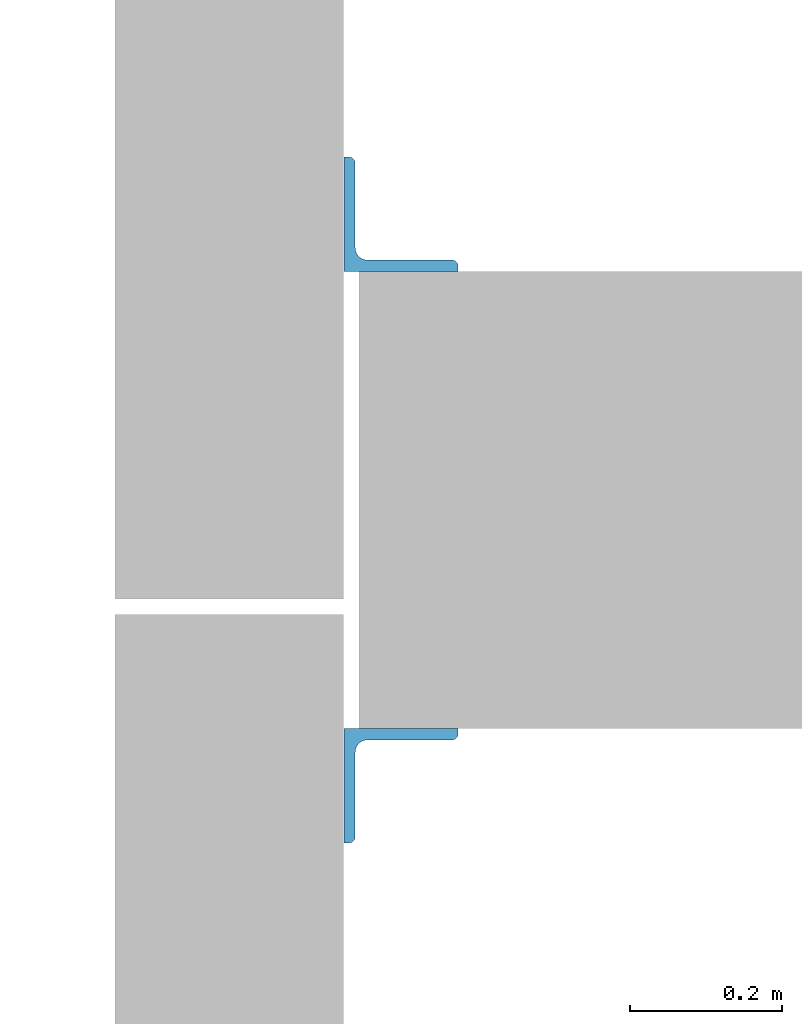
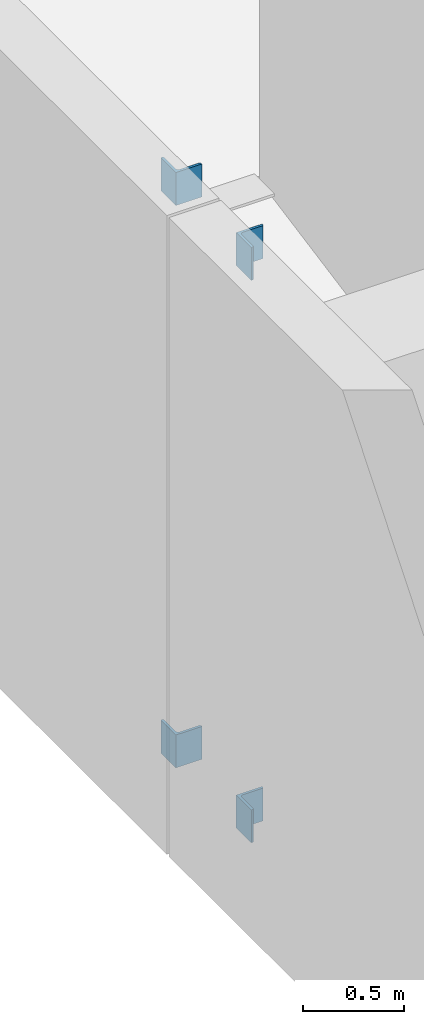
# One storey, part 9 of 27: 4 columns.
"""IFC2X3 building model written with IfcOpenShell, lengths in millimetres."""

from ifc_helpers import new_model, entity, si_unit, converted_unit, derived_unit, direction, frame, frame_2d, origin, place, context, subcontext, project, spatial, polyline, circle_curve, parameter, trimmed, segment, composite_curve, outline, extrude, source, transform, mapped, material, type_object, type_shapes, element, save


model = new_model("IFC2X3")

# Units and contexts
model_context = context("Model", 3, precision=0.01, world=origin(), true_north=direction((6.12303176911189e-17, 1.0)))
body_context = subcontext(model_context, "Body", "Model", "MODEL_VIEW")
ifc_project = project(units=[si_unit("LENGTHUNIT", "METRE", prefix="MILLI"), si_unit("AREAUNIT", "SQUARE_METRE"), si_unit("VOLUMEUNIT", "CUBIC_METRE"), converted_unit("PLANEANGLEUNIT", "DEGREE", entity("IfcRatioMeasure", 0.0174532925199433), si_unit("PLANEANGLEUNIT", "RADIAN"), dimensions=[0, 0, 0, 0, 0, 0, 0]), si_unit("MASSUNIT", "GRAM", prefix="KILO"), derived_unit("MASSDENSITYUNIT", [(si_unit("MASSUNIT", "GRAM", prefix="KILO"), 1), (si_unit("LENGTHUNIT", "METRE"), -3)]), si_unit("TIMEUNIT", "SECOND"), si_unit("FREQUENCYUNIT", "HERTZ"), si_unit("THERMODYNAMICTEMPERATUREUNIT", "DEGREE_CELSIUS"), derived_unit("THERMALTRANSMITTANCEUNIT", [(si_unit("MASSUNIT", "GRAM", prefix="KILO"), 1), (si_unit("THERMODYNAMICTEMPERATUREUNIT", "KELVIN"), -1), (si_unit("TIMEUNIT", "SECOND"), -3)]), derived_unit("VOLUMETRICFLOWRATEUNIT", [(si_unit("LENGTHUNIT", "METRE"), 3), (si_unit("TIMEUNIT", "SECOND"), -1)]), si_unit("ELECTRICCURRENTUNIT", "AMPERE"), si_unit("ELECTRICVOLTAGEUNIT", "VOLT"), si_unit("POWERUNIT", "WATT"), si_unit("FORCEUNIT", "NEWTON", prefix="KILO"), si_unit("ILLUMINANCEUNIT", "LUX"), si_unit("LUMINOUSFLUXUNIT", "LUMEN"), si_unit("LUMINOUSINTENSITYUNIT", "CANDELA"), derived_unit("USERDEFINED", [(si_unit("MASSUNIT", "GRAM", prefix="KILO"), -1), (si_unit("LENGTHUNIT", "METRE"), -2), (si_unit("TIMEUNIT", "SECOND"), 3), (si_unit("LUMINOUSFLUXUNIT", "LUMEN"), 1)]), derived_unit("LINEARVELOCITYUNIT", [(si_unit("LENGTHUNIT", "METRE"), 1), (si_unit("TIMEUNIT", "SECOND"), -1)]), si_unit("PRESSUREUNIT", "PASCAL"), derived_unit("USERDEFINED", [(si_unit("LENGTHUNIT", "METRE"), -2), (si_unit("MASSUNIT", "GRAM", prefix="KILO"), 1), (si_unit("TIMEUNIT", "SECOND"), -2)])], contexts=[model_context])

# Site, building, storey
site_placement = place(None, origin())
site = spatial("IfcSite", under=ifc_project, at=site_placement, Name="Default", CompositionType="ELEMENT")
building_placement = place(site_placement, origin())
building = spatial("IfcBuilding", under=site, at=building_placement, Name="niet gebruiken", CompositionType="ELEMENT")
storey_placement = place(building_placement, frame((0.0, 0.0, 6000.0)))
storey = spatial("IfcBuildingStorey", under=building, at=storey_placement, Name="01 eerste verdieping", CompositionType="ELEMENT", Elevation=6000.0)

# Columns
ifc_material = material(Name="NLRS_h2_staal")
column_type_1 = type_object("IfcColumnType", Name="kolomgelijzijdig hoekprofiel LEQU_150x150x15", PredefinedType="COLUMN", material=ifc_material)
shared_shape_1 = source(origin(), body_context, "Body", "SweptSolid", [
    extrude(outline(composite_curve([segment(polyline([(-93.3333333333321, -56.666666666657), (56.6666666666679, -56.666666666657)]), True, "CONTINUOUS"), segment(polyline([(56.6666666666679, -56.666666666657), (56.6666666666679, 93.333333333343)]), True, "CONTINUOUS"), segment(polyline([(56.6666666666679, 93.333333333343), (49.6666666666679, 93.333333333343)]), True, "CONTINUOUS"), segment(trimmed(circle_curve(frame_2d((49.6666666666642, 85.333333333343), x_axis=(0.0, 1.0)), 7.99999999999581), [parameter(0.0)], [parameter(90.0000000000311)], True, "PARAMETER"), True, "CONTINUOUS"), segment(polyline([(41.6666666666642, 85.333333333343), (41.6666666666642, -25.6666666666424)]), True, "CONTINUOUS"), segment(trimmed(circle_curve(frame_2d((25.6666666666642, -25.6666666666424), x_axis=(1.0, 0.0)), 15.999999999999), [parameter(270.0)], [parameter(0.0)], True, "PARAMETER"), False, "CONTINUOUS"), segment(polyline([(25.6666666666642, -41.666666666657), (-85.3333333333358, -41.666666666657)]), True, "CONTINUOUS"), segment(trimmed(circle_curve(frame_2d((-85.3333333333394, -49.666666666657), x_axis=(0.0, 1.0)), 7.99999999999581), [parameter(0.0)], [parameter(90.0000000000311)], True, "PARAMETER"), True, "CONTINUOUS"), segment(polyline([(-93.3333333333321, -49.666666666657), (-93.3333333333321, -56.666666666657)]), True, "CONTINUOUS")], self_intersect=False)), frame((124606.766666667, 30456.6666666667, 9525.0), z_axis=(0.0, 0.0, 1.0), x_axis=(0.0, -1.0, 0.0)), (0.0, 0.0, 1.0), 199.999999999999),
])
type_shapes(column_type_1, [shared_shape_1])
column_1_placement = place(storey_placement, frame((0.0, 0.0, -6000.0)))
element("IfcColumn", 1, at=column_1_placement, inside=storey, type_object=column_type_1, material=ifc_material, Name="NLRS_28.11_SCO_TLB_stalen kolom hoekprofiel gelijkzijdig_gen:kolomgelijzijdig hoekprofiel LEQU_150x150x15", ObjectType="kolomgelijzijdig hoekprofiel LEQU_150x150x15", context=body_context, shape_type="MappedRepresentation", body=[
    mapped(shared_shape_1, transform((0.0, 0.0, 0.0), scale=1.0)),
])
column_type_2 = type_object("IfcColumnType", Name="kolomgelijzijdig hoekprofiel LEQU_150x150x15", PredefinedType="COLUMN", material=ifc_material)
shared_shape_2 = source(origin(), body_context, "Body", "SweptSolid", [
    extrude(outline(composite_curve([segment(polyline([(-56.6666666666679, -56.6666666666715), (93.3333333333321, -56.6666666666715)]), True, "CONTINUOUS"), segment(polyline([(93.3333333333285, -56.6666666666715), (93.3333333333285, -49.6666666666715)]), True, "CONTINUOUS"), segment(trimmed(circle_curve(frame_2d((85.3333333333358, -49.6666666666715), x_axis=(1.0, 0.0)), 7.99999999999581), [parameter(0.0)], [parameter(90.0000000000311)], True, "PARAMETER"), True, "CONTINUOUS"), segment(polyline([(85.3333333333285, -41.6666666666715), (-25.6666666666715, -41.6666666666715)]), True, "CONTINUOUS"), segment(trimmed(circle_curve(frame_2d((-25.6666666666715, -25.6666666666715), x_axis=(0.0, -1.0)), 15.999999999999), [parameter(270.0)], [parameter(0.0)], True, "PARAMETER"), False, "CONTINUOUS"), segment(polyline([(-41.6666666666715, -25.6666666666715), (-41.6666666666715, 85.3333333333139)]), True, "CONTINUOUS"), segment(trimmed(circle_curve(frame_2d((-49.6666666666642, 85.3333333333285), x_axis=(1.0, 0.0)), 7.99999999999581), [parameter(0.0)], [parameter(90.0000000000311)], True, "PARAMETER"), True, "CONTINUOUS"), segment(polyline([(-49.6666666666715, 93.3333333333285), (-56.6666666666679, 93.3333333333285)]), True, "CONTINUOUS"), segment(polyline([(-56.6666666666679, 93.3333333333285), (-56.6666666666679, -56.6666666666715)]), True, "CONTINUOUS")], self_intersect=False)), frame((124606.766666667, 29743.3333333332, 9525.0), z_axis=(0.0, 0.0, 1.0), x_axis=(0.0, -1.0, 0.0)), (0.0, 0.0, 1.0), 199.999999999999),
])
type_shapes(column_type_2, [shared_shape_2])
column_2_placement = place(storey_placement, frame((0.0, 0.0, -6000.0)))
element("IfcColumn", 2, at=column_2_placement, inside=storey, type_object=column_type_2, material=ifc_material, Name="NLRS_28.11_SCO_TLB_stalen kolom hoekprofiel gelijkzijdig_gen:kolomgelijzijdig hoekprofiel LEQU_150x150x15", ObjectType="kolomgelijzijdig hoekprofiel LEQU_150x150x15", context=body_context, shape_type="MappedRepresentation", body=[
    mapped(shared_shape_2, transform((0.0, 0.0, 0.0), scale=1.0)),
])
column_type_3 = type_object("IfcColumnType", Name="kolomgelijzijdig hoekprofiel LEQU_150x150x15", PredefinedType="COLUMN", material=ifc_material)
shared_shape_3 = source(origin(), body_context, "Body", "SweptSolid", [
    extrude(outline(composite_curve([segment(polyline([(-93.3333333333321, -56.666666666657), (56.6666666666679, -56.666666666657)]), True, "CONTINUOUS"), segment(polyline([(56.6666666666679, -56.666666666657), (56.6666666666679, 93.333333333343)]), True, "CONTINUOUS"), segment(polyline([(56.6666666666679, 93.333333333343), (49.6666666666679, 93.333333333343)]), True, "CONTINUOUS"), segment(trimmed(circle_curve(frame_2d((49.6666666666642, 85.333333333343), x_axis=(0.0, 1.0)), 7.99999999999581), [parameter(0.0)], [parameter(90.0000000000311)], True, "PARAMETER"), True, "CONTINUOUS"), segment(polyline([(41.6666666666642, 85.333333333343), (41.6666666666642, -25.6666666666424)]), True, "CONTINUOUS"), segment(trimmed(circle_curve(frame_2d((25.6666666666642, -25.6666666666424), x_axis=(1.0, 0.0)), 15.999999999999), [parameter(270.0)], [parameter(0.0)], True, "PARAMETER"), False, "CONTINUOUS"), segment(polyline([(25.6666666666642, -41.666666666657), (-85.3333333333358, -41.666666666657)]), True, "CONTINUOUS"), segment(trimmed(circle_curve(frame_2d((-85.3333333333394, -49.666666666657), x_axis=(0.0, 1.0)), 7.99999999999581), [parameter(0.0)], [parameter(90.0000000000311)], True, "PARAMETER"), True, "CONTINUOUS"), segment(polyline([(-93.3333333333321, -49.666666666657), (-93.3333333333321, -56.666666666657)]), True, "CONTINUOUS")], self_intersect=False)), frame((124606.766666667, 30456.6666666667, 6109.66573809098), z_axis=(0.0, 0.0, 1.0), x_axis=(0.0, -1.0, 0.0)), (0.0, 0.0, 1.0), 200.0),
])
type_shapes(column_type_3, [shared_shape_3])
column_3_placement = place(storey_placement, frame((0.0, 0.0, -6000.0)))
element("IfcColumn", 3, at=column_3_placement, inside=storey, type_object=column_type_3, material=ifc_material, Name="NLRS_28.11_SCO_TLB_stalen kolom hoekprofiel gelijkzijdig_gen:kolomgelijzijdig hoekprofiel LEQU_150x150x15", ObjectType="kolomgelijzijdig hoekprofiel LEQU_150x150x15", context=body_context, shape_type="MappedRepresentation", body=[
    mapped(shared_shape_3, transform((0.0, 0.0, 0.0), scale=1.0)),
])
column_type_4 = type_object("IfcColumnType", Name="kolomgelijzijdig hoekprofiel LEQU_150x150x15", PredefinedType="COLUMN", material=ifc_material)
shared_shape_4 = source(origin(), body_context, "Body", "SweptSolid", [
    extrude(outline(composite_curve([segment(polyline([(-56.6666666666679, -56.6666666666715), (93.3333333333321, -56.6666666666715)]), True, "CONTINUOUS"), segment(polyline([(93.3333333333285, -56.6666666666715), (93.3333333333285, -49.6666666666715)]), True, "CONTINUOUS"), segment(trimmed(circle_curve(frame_2d((85.3333333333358, -49.6666666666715), x_axis=(1.0, 0.0)), 7.99999999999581), [parameter(0.0)], [parameter(90.0000000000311)], True, "PARAMETER"), True, "CONTINUOUS"), segment(polyline([(85.3333333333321, -41.6666666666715), (-25.6666666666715, -41.6666666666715)]), True, "CONTINUOUS"), segment(trimmed(circle_curve(frame_2d((-25.6666666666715, -25.6666666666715), x_axis=(0.0, -1.0)), 15.999999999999), [parameter(270.0)], [parameter(0.0)], True, "PARAMETER"), False, "CONTINUOUS"), segment(polyline([(-41.6666666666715, -25.6666666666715), (-41.6666666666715, 85.3333333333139)]), True, "CONTINUOUS"), segment(trimmed(circle_curve(frame_2d((-49.6666666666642, 85.3333333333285), x_axis=(1.0, 0.0)), 7.99999999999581), [parameter(0.0)], [parameter(90.0000000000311)], True, "PARAMETER"), True, "CONTINUOUS"), segment(polyline([(-49.6666666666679, 93.3333333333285), (-56.6666666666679, 93.3333333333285)]), True, "CONTINUOUS"), segment(polyline([(-56.6666666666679, 93.3333333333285), (-56.6666666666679, -56.6666666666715)]), True, "CONTINUOUS")], self_intersect=False)), frame((124606.766666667, 29743.3333333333, 6109.66573808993), z_axis=(0.0, 0.0, 1.0), x_axis=(0.0, -1.0, 0.0)), (0.0, 0.0, 1.0), 199.999999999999),
])
type_shapes(column_type_4, [shared_shape_4])
column_4_placement = place(storey_placement, frame((0.0, 0.0, -6000.0)))
element("IfcColumn", 4, at=column_4_placement, inside=storey, type_object=column_type_4, material=ifc_material, Name="NLRS_28.11_SCO_TLB_stalen kolom hoekprofiel gelijkzijdig_gen:kolomgelijzijdig hoekprofiel LEQU_150x150x15", ObjectType="kolomgelijzijdig hoekprofiel LEQU_150x150x15", context=body_context, shape_type="MappedRepresentation", body=[
    mapped(shared_shape_4, transform((0.0, 0.0, 0.0), scale=1.0)),
])

save(model, "model.ifc")
